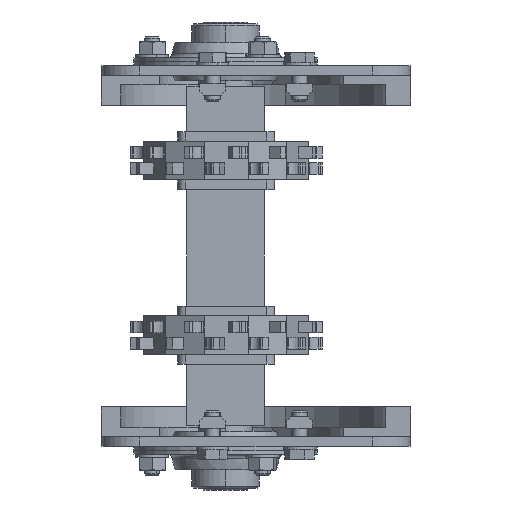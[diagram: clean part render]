
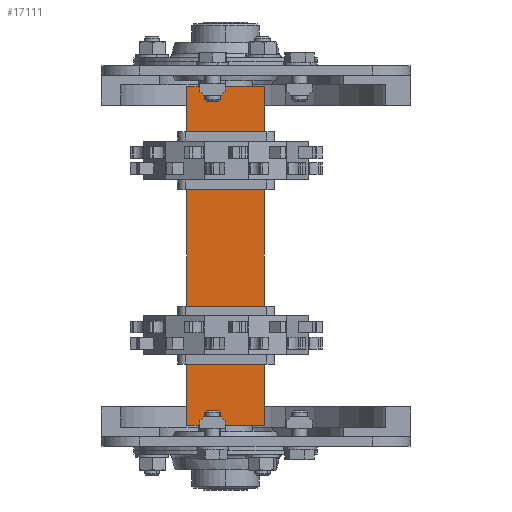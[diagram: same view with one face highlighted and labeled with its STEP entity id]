
A CAD part, left-side view. The second image highlights one B-rep face of the part: STEP entity #17111.
In plain terms, the highlighted planar face has unit normal (-1, 0, 0).
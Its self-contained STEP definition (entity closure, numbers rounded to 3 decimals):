
#664 = EDGE_LOOP ( 'NONE', ( #3798, #3068, #13239, #19590 ) ) ;
#2005 = VERTEX_POINT ( 'NONE', #3600 ) ;
#3068 = ORIENTED_EDGE ( 'NONE', *, *, #4923, .F. ) ;
#3426 = DIRECTION ( 'NONE',  ( 1., 0., 0. ) ) ;
#3600 = CARTESIAN_POINT ( 'NONE',  ( -20., 20., 87.5 ) ) ;
#3608 = FACE_OUTER_BOUND ( 'NONE', #664, .T. ) ;
#3798 = ORIENTED_EDGE ( 'NONE', *, *, #7647, .T. ) ;
#3873 = LINE ( 'NONE', #11507, #17800 ) ;
#3935 = LINE ( 'NONE', #21140, #18744 ) ;
#4125 = CARTESIAN_POINT ( 'NONE',  ( -20., 20., 87.5 ) ) ;
#4633 = CARTESIAN_POINT ( 'NONE',  ( -20., 20., -87.5 ) ) ;
#4923 = EDGE_CURVE ( 'NONE', #13908, #10688, #9074, .T. ) ;
#5635 = EDGE_CURVE ( 'NONE', #2005, #7787, #3935, .T. ) ;
#5805 = EDGE_CURVE ( 'NONE', #2005, #13908, #8989, .T. ) ;
#7647 = EDGE_CURVE ( 'NONE', #7787, #10688, #3873, .T. ) ;
#7787 = VERTEX_POINT ( 'NONE', #4633 ) ;
#8989 = LINE ( 'NONE', #4125, #10926 ) ;
#9074 = LINE ( 'NONE', #16060, #13492 ) ;
#9514 = DIRECTION ( 'NONE',  ( 0., -1., 0. ) ) ;
#9634 = AXIS2_PLACEMENT_3D ( 'NONE', #12527, #3426, #19317 ) ;
#10688 = VERTEX_POINT ( 'NONE', #19957 ) ;
#10766 = PLANE ( 'NONE',  #9634 ) ;
#10926 = VECTOR ( 'NONE', #9514, 1000. ) ;
#11507 = CARTESIAN_POINT ( 'NONE',  ( -20., 20., -87.5 ) ) ;
#12527 = CARTESIAN_POINT ( 'NONE',  ( -20., 20., 87.5 ) ) ;
#12551 = DIRECTION ( 'NONE',  ( 0., 0., -1. ) ) ;
#13239 = ORIENTED_EDGE ( 'NONE', *, *, #5805, .F. ) ;
#13492 = VECTOR ( 'NONE', #12551, 1000. ) ;
#13908 = VERTEX_POINT ( 'NONE', #17965 ) ;
#16060 = CARTESIAN_POINT ( 'NONE',  ( -20., -20., 87.5 ) ) ;
#17111 = ADVANCED_FACE ( 'NONE', ( #3608 ), #10766, .F. ) ;
#17800 = VECTOR ( 'NONE', #20220, 1000. ) ;
#17965 = CARTESIAN_POINT ( 'NONE',  ( -20., -20., 87.5 ) ) ;
#18744 = VECTOR ( 'NONE', #19534, 1000. ) ;
#19317 = DIRECTION ( 'NONE',  ( 0., 1., 0. ) ) ;
#19534 = DIRECTION ( 'NONE',  ( 0., 0., -1. ) ) ;
#19590 = ORIENTED_EDGE ( 'NONE', *, *, #5635, .T. ) ;
#19957 = CARTESIAN_POINT ( 'NONE',  ( -20., -20., -87.5 ) ) ;
#20220 = DIRECTION ( 'NONE',  ( 0., -1., 0. ) ) ;
#21140 = CARTESIAN_POINT ( 'NONE',  ( -20., 20., 87.5 ) ) ;
